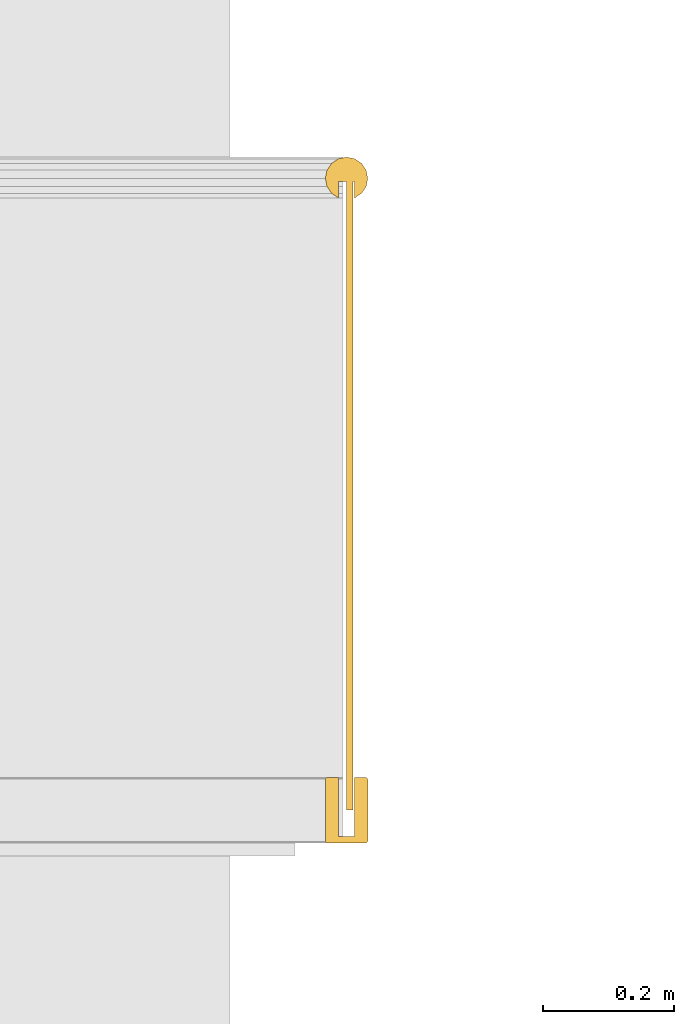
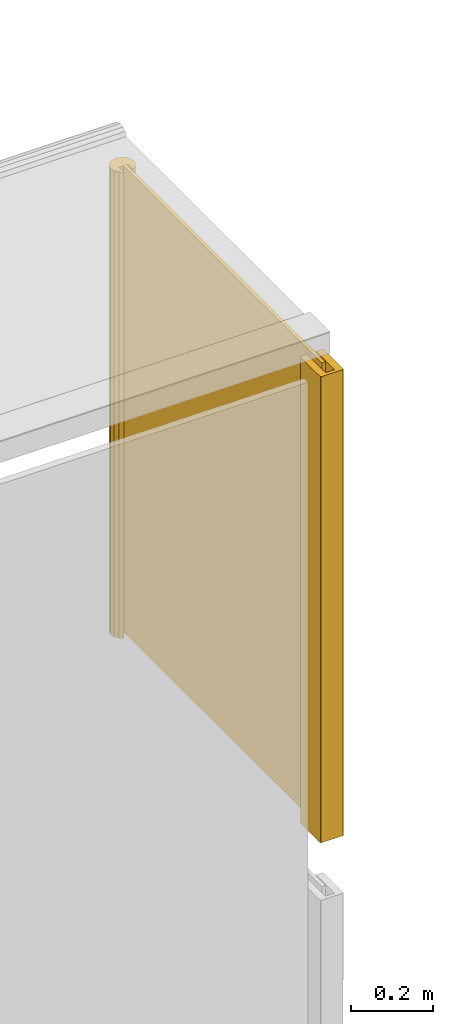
# One storey, part 10 of 15: 1 railing.
"""IFC2X3 building model written with IfcOpenShell, lengths in metres."""

from ifc_helpers import new_model, entity, si_unit, converted_unit, derived_unit, money_unit, direction, frame, origin_with_axes, place, context, subcontext, project, spatial, faceted_brep, material, type_object, element, save


model = new_model("IFC2X3")

# Units and contexts
model_context = context("Model", 3, precision=1e-05, world=origin_with_axes(), true_north=direction((0.0, 1.0)))
body_context = subcontext(model_context, "Body", "Model", "MODEL_VIEW", scale=1.0)
ifc_project = project(units=[si_unit("LENGTHUNIT", "METRE"), si_unit("AREAUNIT", "SQUARE_METRE"), si_unit("VOLUMEUNIT", "CUBIC_METRE"), si_unit("ABSORBEDDOSEUNIT", "GRAY"), si_unit("AMOUNTOFSUBSTANCEUNIT", "MOLE"), si_unit("DOSEEQUIVALENTUNIT", "SIEVERT"), si_unit("ELECTRICCAPACITANCEUNIT", "FARAD"), si_unit("ELECTRICCHARGEUNIT", "COULOMB"), si_unit("ELECTRICCONDUCTANCEUNIT", "SIEMENS"), si_unit("ELECTRICCURRENTUNIT", "AMPERE"), si_unit("ELECTRICRESISTANCEUNIT", "OHM"), si_unit("ELECTRICVOLTAGEUNIT", "VOLT"), si_unit("ENERGYUNIT", "JOULE"), si_unit("FORCEUNIT", "NEWTON"), si_unit("FREQUENCYUNIT", "HERTZ"), si_unit("ILLUMINANCEUNIT", "LUX"), si_unit("INDUCTANCEUNIT", "HENRY"), si_unit("LUMINOUSFLUXUNIT", "LUMEN"), si_unit("LUMINOUSINTENSITYUNIT", "CANDELA"), si_unit("MAGNETICFLUXDENSITYUNIT", "TESLA"), si_unit("MAGNETICFLUXUNIT", "WEBER"), si_unit("MASSUNIT", "GRAM"), converted_unit("PLANEANGLEUNIT", "degree", entity("IfcReal", 0.0174532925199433), si_unit("PLANEANGLEUNIT", "RADIAN"), dimensions=[0, 0, 0, 0, 0, 0, 0]), si_unit("POWERUNIT", "WATT"), si_unit("PRESSUREUNIT", "PASCAL"), si_unit("RADIOACTIVITYUNIT", "BECQUEREL"), si_unit("SOLIDANGLEUNIT", "STERADIAN"), si_unit("THERMODYNAMICTEMPERATUREUNIT", "KELVIN"), si_unit("TIMEUNIT", "SECOND"), derived_unit("ACCELERATIONUNIT", [(si_unit("LENGTHUNIT", "METRE"), 1), (si_unit("TIMEUNIT", "SECOND"), -2)]), derived_unit("ANGULARVELOCITYUNIT", [(converted_unit("PLANEANGLEUNIT", "degree", entity("IfcReal", 0.0174532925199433), si_unit("PLANEANGLEUNIT", "RADIAN"), dimensions=[0, 0, 0, 0, 0, 0, 0]), 1), (si_unit("TIMEUNIT", "SECOND"), -1)]), derived_unit("CURVATUREUNIT", [(converted_unit("PLANEANGLEUNIT", "degree", entity("IfcReal", 0.0174532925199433), si_unit("PLANEANGLEUNIT", "RADIAN"), dimensions=[0, 0, 0, 0, 0, 0, 0]), 1), (si_unit("LENGTHUNIT", "METRE"), -1)]), derived_unit("DYNAMICVISCOSITYUNIT", [(si_unit("PRESSUREUNIT", "PASCAL"), 1), (si_unit("TIMEUNIT", "SECOND"), 1)]), derived_unit("HEATFLUXDENSITYUNIT", [(si_unit("POWERUNIT", "WATT"), 1), (si_unit("LENGTHUNIT", "METRE"), -2)]), derived_unit("HEATINGVALUEUNIT", [(si_unit("ENERGYUNIT", "JOULE"), 1), (si_unit("MASSUNIT", "GRAM"), -1)]), derived_unit("INTEGERCOUNTRATEUNIT", [(si_unit("TIMEUNIT", "SECOND"), -1)]), derived_unit("IONCONCENTRATIONUNIT", [(si_unit("MASSUNIT", "GRAM"), 1), (si_unit("VOLUMEUNIT", "CUBIC_METRE"), -1)]), derived_unit("ISOTHERMALMOISTURECAPACITYUNIT", [(si_unit("VOLUMEUNIT", "CUBIC_METRE"), 1), (si_unit("MASSUNIT", "GRAM"), -1)]), derived_unit("KINEMATICVISCOSITYUNIT", [(si_unit("AREAUNIT", "SQUARE_METRE"), 1), (si_unit("TIMEUNIT", "SECOND"), -1)]), derived_unit("LINEARFORCEUNIT", [(si_unit("FORCEUNIT", "NEWTON"), 1), (si_unit("LENGTHUNIT", "METRE"), -1)]), derived_unit("LINEARMOMENTUNIT", [(si_unit("FORCEUNIT", "NEWTON"), 1), (si_unit("LENGTHUNIT", "METRE"), -1)]), derived_unit("LINEARSTIFFNESSUNIT", [(si_unit("FORCEUNIT", "NEWTON"), 1), (si_unit("LENGTHUNIT", "METRE"), -1)]), derived_unit("LINEARVELOCITYUNIT", [(si_unit("LENGTHUNIT", "METRE"), 1), (si_unit("TIMEUNIT", "SECOND"), -1)]), derived_unit("LUMINOUSINTENSITYDISTRIBUTIONUNIT", [(si_unit("LUMINOUSINTENSITYUNIT", "CANDELA"), 1), (si_unit("LUMINOUSFLUXUNIT", "LUMEN"), -1)]), derived_unit("MASSDENSITYUNIT", [(si_unit("MASSUNIT", "GRAM"), 1), (si_unit("VOLUMEUNIT", "CUBIC_METRE"), -1)]), derived_unit("MASSFLOWRATEUNIT", [(si_unit("MASSUNIT", "GRAM"), 1), (si_unit("TIMEUNIT", "SECOND"), -1)]), derived_unit("MASSPERLENGTHUNIT", [(si_unit("MASSUNIT", "GRAM"), 1), (si_unit("LENGTHUNIT", "METRE"), -1)]), derived_unit("MODULUSOFELASTICITYUNIT", [(si_unit("FORCEUNIT", "NEWTON"), 1), (si_unit("AREAUNIT", "SQUARE_METRE"), -1)]), derived_unit("MODULUSOFLINEARSUBGRADEREACTIONUNIT", [(si_unit("FORCEUNIT", "NEWTON"), 1), (si_unit("LENGTHUNIT", "METRE"), -2)]), derived_unit("MODULUSOFROTATIONALSUBGRADEREACTIONUNIT", [(si_unit("FORCEUNIT", "NEWTON"), 1), (si_unit("LENGTHUNIT", "METRE"), 1)]), derived_unit("MODULUSOFSUBGRADEREACTIONUNIT", [(si_unit("FORCEUNIT", "NEWTON"), 1), (si_unit("VOLUMEUNIT", "CUBIC_METRE"), -1)]), derived_unit("MOISTUREDIFFUSIVITYUNIT", [(si_unit("VOLUMEUNIT", "CUBIC_METRE"), 1), (si_unit("TIMEUNIT", "SECOND"), -1)]), derived_unit("MOLECULARWEIGHTUNIT", [(si_unit("MASSUNIT", "GRAM"), 1), (si_unit("AMOUNTOFSUBSTANCEUNIT", "MOLE"), -1)]), derived_unit("PLANARFORCEUNIT", [(si_unit("FORCEUNIT", "NEWTON"), 1), (si_unit("LENGTHUNIT", "METRE"), -2)]), derived_unit("ROTATIONALFREQUENCYUNIT", [(si_unit("TIMEUNIT", "SECOND"), -1)]), derived_unit("ROTATIONALMASSUNIT", [(si_unit("MASSUNIT", "GRAM"), 1), (si_unit("LENGTHUNIT", "METRE"), 2)]), derived_unit("ROTATIONALSTIFFNESSUNIT", [(si_unit("FORCEUNIT", "NEWTON"), 1), (si_unit("LENGTHUNIT", "METRE"), 1), (converted_unit("PLANEANGLEUNIT", "degree", entity("IfcReal", 0.0174532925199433), si_unit("PLANEANGLEUNIT", "RADIAN"), dimensions=[0, 0, 0, 0, 0, 0, 0]), -1)]), derived_unit("SECTIONAREAINTEGRALUNIT", [(si_unit("LENGTHUNIT", "METRE"), 5)]), derived_unit("SECTIONMODULUSUNIT", [(si_unit("LENGTHUNIT", "METRE"), 3)]), derived_unit("SHEARMODULUSUNIT", [(si_unit("FORCEUNIT", "NEWTON"), 1), (si_unit("AREAUNIT", "SQUARE_METRE"), -1)]), derived_unit("SOUNDPOWERUNIT", [(si_unit("ENERGYUNIT", "JOULE"), 1), (si_unit("TIMEUNIT", "SECOND"), -1)]), derived_unit("SPECIFICHEATCAPACITYUNIT", [(si_unit("FORCEUNIT", "NEWTON"), 1), (si_unit("MASSUNIT", "GRAM"), -1), (si_unit("THERMODYNAMICTEMPERATUREUNIT", "KELVIN"), -1)]), derived_unit("TEMPERATUREGRADIENTUNIT", [(si_unit("THERMODYNAMICTEMPERATUREUNIT", "KELVIN"), 1), (si_unit("LENGTHUNIT", "METRE"), -1)]), derived_unit("THERMALADMITTANCEUNIT", [(si_unit("POWERUNIT", "WATT"), 1), (si_unit("AREAUNIT", "SQUARE_METRE"), -1), (si_unit("THERMODYNAMICTEMPERATUREUNIT", "KELVIN"), -1)]), derived_unit("THERMALCONDUCTANCEUNIT", [(si_unit("POWERUNIT", "WATT"), 1), (si_unit("LENGTHUNIT", "METRE"), -1), (si_unit("THERMODYNAMICTEMPERATUREUNIT", "KELVIN"), -1)]), derived_unit("THERMALEXPANSIONCOEFFICIENTUNIT", [(si_unit("THERMODYNAMICTEMPERATUREUNIT", "KELVIN"), -1)]), derived_unit("THERMALRESISTANCEUNIT", [(si_unit("AREAUNIT", "SQUARE_METRE"), 1), (si_unit("POWERUNIT", "WATT"), -1)]), derived_unit("THERMALTRANSMITTANCEUNIT", [(si_unit("POWERUNIT", "WATT"), 1), (si_unit("AREAUNIT", "SQUARE_METRE"), -1), (si_unit("THERMODYNAMICTEMPERATUREUNIT", "KELVIN"), -1)]), derived_unit("TORQUEUNIT", [(si_unit("FORCEUNIT", "NEWTON"), 1), (si_unit("LENGTHUNIT", "METRE"), 1)]), derived_unit("VAPORPERMEABILITYUNIT", [(si_unit("MASSUNIT", "GRAM"), 1), (si_unit("TIMEUNIT", "SECOND"), -1)]), derived_unit("VOLUMETRICFLOWRATEUNIT", [(si_unit("VOLUMEUNIT", "CUBIC_METRE"), 1), (si_unit("TIMEUNIT", "SECOND"), -1)]), derived_unit("WARPINGCONSTANTUNIT", [(si_unit("LENGTHUNIT", "METRE"), 6)]), derived_unit("WARPINGMOMENTUNIT", [(si_unit("FORCEUNIT", "NEWTON"), 1), (si_unit("LENGTHUNIT", "METRE"), 2)]), money_unit("GBP")], contexts=[model_context])

# Site, building, storey
site_placement = place(None, origin_with_axes())
site = spatial("IfcSite", under=ifc_project, at=site_placement, Name="Site", CompositionType="ELEMENT")
building_placement = place(site_placement, origin_with_axes())
building = spatial("IfcBuilding", under=site, at=building_placement, Name="Building01", CompositionType="ELEMENT")
storey_placement = place(building_placement, origin_with_axes())
storey = spatial("IfcBuildingStorey", under=building, at=storey_placement, Name="GF", CompositionType="ELEMENT", Elevation=0.0)

# Railing
ifc_material = material(Name="A_BSUK_Steel_Miscellaneous")
railing_type = type_object("IfcRailingType", Name="A-RailingGlassPanel-1050mm", PredefinedType="NOTDEFINED")
railing_placement = place(storey_placement, frame((18.663481, 8.587442, 26.319835), z_axis=(0.0, 1.0, 0.0), x_axis=(0.0, 0.0, 1.0)))
element("IfcRailing", 1, at=railing_placement, inside=storey, type_object=railing_type, material=ifc_material, Name="A-RailingGlassPanel-1050mm", ObjectType="A-RailingGlassPanel-1050mm", PredefinedType="HANDRAIL", context=body_context, shape_type="Brep", body=[
    faceted_brep([(-1.3798, -0.0125, 0.9875), (0.0, -0.0125, 0.9875), (0.0, -0.023022, 0.99456), (-1.3798, -0.023022, 0.99456), (0.0, -0.030045, 1.005108), (-1.3798, -0.030045, 1.005108), (0.0, -0.0325, 1.017539), (-1.3798, -0.0325, 1.017539), (0.0, -0.030015, 1.029964), (-1.3798, -0.030015, 1.029964), (0.0, -0.022967, 1.040495), (-1.3798, -0.022967, 1.040495), (0.0, -0.012428, 1.04753), (-1.3798, -0.012428, 1.04753), (0.0, 0.0, 1.05), (-1.3798, 0.0, 1.05), (0.0, 0.012428, 1.04753), (-1.3798, 0.012428, 1.04753), (0.0, 0.022967, 1.040495), (-1.3798, 0.022967, 1.040495), (0.0, 0.030015, 1.029964), (-1.3798, 0.030015, 1.029964), (0.0, 0.0325, 1.017539), (-1.3798, 0.0325, 1.017539), (0.0, 0.030045, 1.005108), (-1.3798, 0.030045, 1.005108), (0.0, 0.023022, 0.99456), (-1.3798, 0.023022, 0.99456), (0.0, 0.0125, 0.9875), (-1.3798, 0.0125, 0.9875), (-1.3798, -0.0125, 1.0125), (0.0, -0.0125, 1.0125), (-1.3798, 0.0125, 1.0125), (0.0, 0.0125, 1.0125)], [[[0, 1, 2, 3]], [[3, 2, 4, 5]], [[5, 4, 6, 7]], [[7, 6, 8, 9]], [[9, 8, 10, 11]], [[11, 10, 12, 13]], [[13, 12, 14, 15]], [[15, 14, 16, 17]], [[17, 16, 18, 19]], [[19, 18, 20, 21]], [[21, 20, 22, 23]], [[23, 22, 24, 25]], [[25, 24, 26, 27]], [[27, 26, 28, 29]], [[0, 30, 31, 1]], [[30, 32, 33, 31]], [[32, 30, 0, 3, 5, 7, 9, 11, 13, 15, 17, 19, 21, 23, 25, 27, 29]], [[32, 29, 28, 33]], [[28, 26, 24, 22, 20, 18, 16, 14, 12, 10, 8, 6, 4, 2, 1, 31, 33]]]),
    faceted_brep([(-1.3798, -0.0295, 0.099925), (0.0, -0.0295, 0.099925), (0.0, -0.0125, 0.099925), (-1.3798, -0.0125, 0.099925), (-1.3798, -0.0325, 0.096925), (0.0, -0.0325, 0.096925), (0.0, -0.032272, 0.098073), (-1.3798, -0.032272, 0.098073), (0.0, -0.031621, 0.099046), (-1.3798, -0.031621, 0.099046), (0.0, -0.030648, 0.099697), (-1.3798, -0.030648, 0.099697), (-1.3798, -0.0325, 0.003), (0.0, -0.0325, 0.003), (-1.3798, -0.0295, 0.0), (-1.3798, -0.030648, 0.000228), (-1.3798, -0.031621, 0.000879), (-1.3798, -0.032272, 0.001852), (-1.3798, -0.0125, 0.01), (-1.3798, 0.0125, 0.01), (-1.3798, 0.0125, 0.099925), (-1.3798, 0.0295, 0.099925), (-1.3798, 0.030648, 0.099697), (-1.3798, 0.031621, 0.099046), (-1.3798, 0.032272, 0.098073), (-1.3798, 0.0325, 0.096925), (-1.3798, 0.0325, 0.003), (-1.3798, 0.032272, 0.001852), (-1.3798, 0.031621, 0.000879), (-1.3798, 0.030648, 0.000228), (-1.3798, 0.0295, 0.0), (0.0, 0.0295, 0.0), (0.0, 0.030648, 0.000228), (0.0, 0.031621, 0.000879), (0.0, 0.032272, 0.001852), (0.0, 0.0325, 0.003), (0.0, 0.0325, 0.096925), (0.0, 0.032272, 0.098073), (0.0, 0.031621, 0.099046), (0.0, 0.030648, 0.099697), (0.0, 0.0295, 0.099925), (0.0, 0.0125, 0.099925), (0.0, 0.0125, 0.01), (0.0, -0.0125, 0.01), (0.0, -0.032272, 0.001852), (0.0, -0.031621, 0.000879), (0.0, -0.030648, 0.000228), (0.0, -0.0295, 0.0)], [[[0, 1, 2, 3]], [[4, 5, 6, 7]], [[7, 6, 8, 9]], [[9, 8, 10, 11]], [[11, 10, 1, 0]], [[4, 12, 13, 5]], [[14, 15, 16, 17, 12, 4, 7, 9, 11, 0, 3, 18, 19, 20, 21, 22, 23, 24, 25, 26, 27, 28, 29, 30]], [[31, 32, 33, 34, 35, 36, 37, 38, 39, 40, 41, 42, 43, 2, 1, 10, 8, 6, 5, 13, 44, 45, 46, 47]], [[14, 47, 46, 15]], [[15, 46, 45, 16]], [[16, 45, 44, 17]], [[17, 44, 13, 12]], [[14, 30, 31, 47]], [[26, 35, 34, 27]], [[27, 34, 33, 28]], [[28, 33, 32, 29]], [[29, 32, 31, 30]], [[26, 25, 36, 35]], [[21, 40, 39, 22]], [[22, 39, 38, 23]], [[23, 38, 37, 24]], [[24, 37, 36, 25]], [[21, 20, 41, 40]], [[20, 19, 42, 41]], [[19, 18, 43, 42]], [[18, 3, 2, 43]]]),
    faceted_brep([(0.0, 0.0, 0.05), (0.0, 0.0, 1.025), (-1.3798, 0.0, 1.025), (-1.3798, 0.0, 0.05), (-1.3798, 0.01, 0.05), (-1.3798, 0.01, 1.025), (0.0, 0.01, 1.025), (0.0, 0.01, 0.05)], [[[0, 1, 2, 3]], [[4, 5, 6, 7]], [[0, 7, 6, 1]], [[1, 6, 5, 2]], [[2, 5, 4, 3]], [[3, 4, 7, 0]]]),
])

save(model, "model.ifc")
